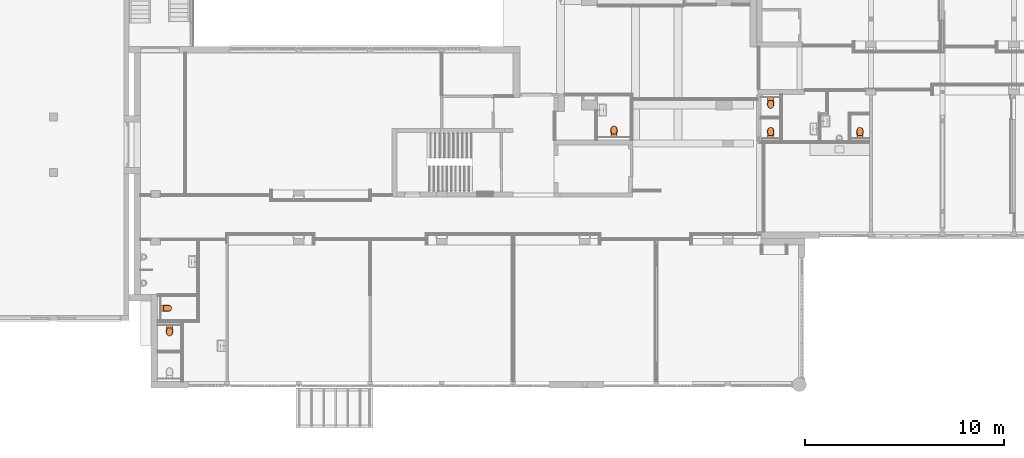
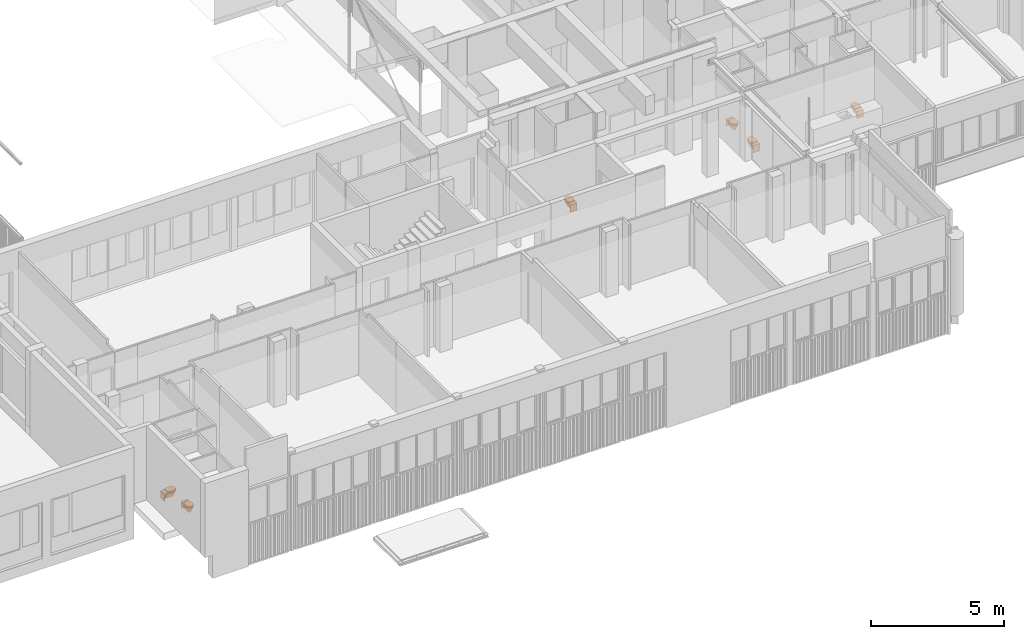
# One storey, part 110 of 117: 6 proxies.
"""IFC2X3 building model written with IfcOpenShell, lengths in millimetres."""

from ifc_helpers import new_model, entity, si_unit, converted_unit, derived_unit, money_unit, direction, frame, origin_with_axes, place, context, subcontext, project, spatial, open_shell, faceted_brep, surface_model, source, transform, mapped, type_object, type_shapes, element, save


model = new_model("IFC2X3")

# Units and contexts
model_context = context("Model", 3, precision=0.01, world=origin_with_axes(), true_north=direction((0.0, 1.0)))
body_context = subcontext(model_context, "Body", "Model", "MODEL_VIEW")
ifc_project = project(units=[si_unit("LENGTHUNIT", "METRE", prefix="MILLI"), si_unit("AREAUNIT", "SQUARE_METRE"), si_unit("VOLUMEUNIT", "CUBIC_METRE"), converted_unit("PLANEANGLEUNIT", "DEGREE", entity("IfcPlaneAngleMeasure", 0.0174532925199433), si_unit("PLANEANGLEUNIT", "RADIAN"), dimensions=[0, 0, 0, 0, 0, 0, 0]), money_unit("EUR"), converted_unit("TIMEUNIT", "Year", entity("IfcTimeMeasure", 31557600.0), si_unit("TIMEUNIT", "SECOND"), dimensions=[0, 0, 1, 0, 0, 0, 0]), si_unit("MASSUNIT", "GRAM", prefix="KILO"), si_unit("THERMODYNAMICTEMPERATUREUNIT", "DEGREE_CELSIUS"), si_unit("LUMINOUSINTENSITYUNIT", "LUMEN"), si_unit("ENERGYUNIT", "JOULE", prefix="MEGA"), derived_unit("THERMALCONDUCTANCEUNIT", [(si_unit("POWERUNIT", "WATT"), 1), (si_unit("LENGTHUNIT", "METRE"), -1), (si_unit("THERMODYNAMICTEMPERATUREUNIT", "KELVIN"), -1)]), derived_unit("SPECIFICHEATCAPACITYUNIT", [(si_unit("ENERGYUNIT", "JOULE"), 1), (si_unit("MASSUNIT", "GRAM", prefix="KILO"), -1), (si_unit("THERMODYNAMICTEMPERATUREUNIT", "KELVIN"), -1)]), derived_unit("MASSDENSITYUNIT", [(si_unit("MASSUNIT", "GRAM", prefix="KILO"), 1), (si_unit("VOLUMEUNIT", "CUBIC_METRE"), -1)])], contexts=[model_context])

# Site, building, storey
site_placement = place(None, origin_with_axes())
site = spatial("IfcSite", under=ifc_project, at=site_placement, Name="Site", CompositionType="ELEMENT")
building_placement = place(site_placement, origin_with_axes())
building = spatial("IfcBuilding", under=site, at=building_placement, Name="Naam gebouw", CompositionType="ELEMENT")
storey_placement = place(building_placement, frame((0.0, 0.0, 4150.0), z_axis=(0.0, 0.0, 1.0), x_axis=(1.0, 0.0, 0.0)))
storey = spatial("IfcBuildingStorey", under=building, at=storey_placement, Name="1e verdieping N", CompositionType="ELEMENT", Elevation=4150.0)

# Proxies
building_element_proxy_type = type_object("IfcBuildingElementProxyType", Name="Toilet 27", PredefinedType="NOTDEFINED")
shared_shape = source(origin_with_axes(), body_context, "Body", "SurfaceModel", [
    faceted_brep([(-141.0283315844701, -29.31865370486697, 69.99999999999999), (-141.0283315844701, 0.4949050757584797, 69.99999999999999), (141.0283315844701, 0.4949050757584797, 69.99999999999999), (141.0283315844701, -29.31865370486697, 69.99999999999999), (-141.0283315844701, -29.31865370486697, 370.0), (-141.0283315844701, 0.4949050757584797, 370.0), (141.0283315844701, 0.4949050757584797, 370.0), (141.0283315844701, -29.31865370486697, 370.0)], [[[0, 1, 2, 3]], [[0, 4, 5, 1]], [[1, 5, 6, 2]], [[2, 6, 7, 3]], [[3, 7, 4, 0]], [[7, 6, 5, 4]]]),
    faceted_brep([(0.0, -70.89167385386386, 370.0), (29.22322490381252, -74.34010881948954, 370.0), (48.96817068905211, -81.5929972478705, 370.0), (48.96817068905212, -29.31865370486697, 370.0), (-48.96817068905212, -29.31865370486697, 370.0), (-48.96817068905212, -81.5929972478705, 370.0), (-29.22322490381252, -74.34010881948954, 370.0), (0.0, -102.6888280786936, 120.0), (13.70129415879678, -104.9506834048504, 120.0), (48.96817068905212, -88.2509938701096, 324.1614695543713), (48.96817068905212, -91.42153264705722, 305.9289314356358), (48.96817068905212, -107.0876370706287, 223.4625696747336), (48.96817068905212, -115.6023982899, 192.7960154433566), (48.96817068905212, -121.830119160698, 170.4964192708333), (48.96817068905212, -132.9294031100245, 150.8349994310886), (48.96817068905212, -136.958898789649, 141.3134093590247), (48.96817068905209, -162.865413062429, 120.0), (48.96817068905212, -29.31865370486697, 120.0), (-48.96817068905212, -29.31865370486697, 120.0), (-48.96817068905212, -132.9294031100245, 150.8349994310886), (-48.96817068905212, -128.1614437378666, 166.4745945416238), (-48.96817068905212, -115.6023982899, 192.7960154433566), (-48.96817068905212, -98.32654517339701, 277.0091093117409), (-48.96817068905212, -91.42153264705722, 305.9289314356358), (-48.96817068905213, -162.8654130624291, 120.0), (-25.9903462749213, -111.5027098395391, 120.0), (-13.70129415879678, -104.9506834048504, 120.0), (25.9903462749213, -111.5027098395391, 120.0), (35.59888072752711, -121.6691333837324, 120.0), (41.53676110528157, -134.4015105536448, 120.0), (-35.59888072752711, -121.6691333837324, 120.0), (-41.53676110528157, -134.4015105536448, 120.0)], [[[0, 1, 2, 3, 4, 5, 6]], [[0, 7, 1]], [[1, 8, 9, 2]], [[9, 10, 11, 12, 13, 14, 15, 16, 17, 3, 2]], [[4, 3, 17, 18]], [[19, 20, 21, 22, 23, 5, 4, 18, 24]], [[23, 25, 6, 5]], [[6, 26, 0]], [[7, 0, 26]], [[8, 1, 7]], [[27, 10, 9, 8]], [[10, 27, 11]], [[28, 12, 11, 27]], [[12, 28, 13]], [[29, 14, 13, 28]], [[14, 29, 15]], [[16, 15, 29]], [[29, 28, 27, 8, 7, 26, 25, 30, 31, 24, 18, 17, 16]], [[19, 31, 20]], [[20, 31, 30, 21]], [[21, 30, 22]], [[22, 30, 25, 23]], [[24, 31, 19]], [[26, 6, 25]]]),
    surface_model("IfcShellBasedSurfaceModel", [(-17.69122070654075, -459.020482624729, 120.0), (-85.18209164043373, -535.3680377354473, 370.0), (-34.02798181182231, -451.6883347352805, 120.0), (-44.28681357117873, -553.722258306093, 370.0), (-119.554809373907, -506.3435444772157, 370.0), (-47.75865687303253, -440.0938417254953, 120.0), (-57.83238894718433, -425.1254476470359, 120.0), (-68.23029031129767, -399.4182096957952, 120.0), (-74.94382651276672, -372.4786779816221, 120.0), (-77.83882476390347, -344.845484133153, 120.0), (-76.85750262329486, -317.0761416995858, 120.0), (-70.97348723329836, -270.8651255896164, 120.0), (-63.11507520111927, -224.9582077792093, 120.0), (-53.29597761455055, -179.4418475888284, 120.0), (-41.53676110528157, -134.4015105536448, 120.0), (-35.59888072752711, -121.6691333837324, 120.0), (-25.9903462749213, -111.5027098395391, 120.0), (-13.70129415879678, -104.9506834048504, 120.0), (0.0, -102.6888280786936, 120.0), (13.70129415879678, -104.9506834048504, 120.0), (25.9903462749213, -111.5027098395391, 120.0), (35.59888072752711, -121.6691333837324, 120.0), (41.53676110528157, -134.4015105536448, 120.0), (53.29597761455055, -179.4418475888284, 120.0), (63.11507520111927, -224.9582077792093, 120.0), (70.97348723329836, -270.8651255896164, 120.0), (76.85750262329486, -317.0761416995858, 120.0), (77.83882476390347, -344.8464779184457, 120.0), (74.94382651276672, -372.4786779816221, 120.0), (68.23029031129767, -399.4182096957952, 120.0), (57.83238894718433, -425.1254476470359, 120.0), (47.75865687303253, -440.0938417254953, 120.0), (34.02798181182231, -451.6883347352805, 120.0), (17.69122070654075, -459.020482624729, 120.0), (0.0, -461.5278029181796, 120.0), (-144.7734172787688, -468.8718762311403, 370.0), (-160.3903462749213, -430.2603362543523, 370.0), (-170.4738719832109, -389.7973742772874, 370.0), (-174.8222455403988, -348.2949128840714, 370.0), (-173.3473242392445, -306.5847503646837, 370.0), (-164.8111927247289, -257.2969749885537, 370.0), (-149.8396642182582, -209.614162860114, 370.0), (-128.7050017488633, -164.3989196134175, 370.0), (-101.7881776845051, -122.4661491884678, 370.0), (-81.51241692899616, -100.8344247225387, 370.0), (-56.88632388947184, -84.50156343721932, 370.0), (-29.22322490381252, -74.34010881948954, 370.0), (0.0, -70.89167385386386, 370.0), (29.22322490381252, -74.34010881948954, 370.0), (56.88632388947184, -84.50156343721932, 370.0), (81.51241692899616, -100.8344247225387, 370.0), (101.7881776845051, -122.4661491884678, 370.0), (128.7050017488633, -164.3989196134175, 370.0), (149.8396642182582, -209.614162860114, 370.0), (164.8111927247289, -257.295981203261, 370.0), (173.3473242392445, -306.5847503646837, 370.0), (174.8222455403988, -348.2949128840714, 370.0), (170.4738719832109, -389.7973742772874, 370.0), (160.3893669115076, -430.2603362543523, 370.0), (144.7734172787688, -468.8718762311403, 370.0), (119.554809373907, -506.3435444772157, 370.0), (85.18209164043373, -535.3680377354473, 370.0), (44.28681357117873, -553.722258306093, 370.0), (0.0, -560.0, 370.0)], [open_shell([[[0, 1, 2]], [[0, 3, 1]], [[2, 1, 4]], [[0, 2, 5, 6, 7, 8, 9, 10, 11, 12, 13, 14, 15, 16, 17, 18, 19, 20, 21, 22, 23, 24, 25, 26, 27, 28, 29, 30, 31, 32, 33, 34]], [[34, 3, 0]], [[2, 4, 5]], [[5, 35, 6]], [[6, 36, 7]], [[7, 37, 8]], [[8, 38, 9]], [[9, 39, 10]], [[10, 40, 11]], [[11, 41, 12]], [[12, 42, 13]], [[13, 43, 14]], [[14, 44, 15]], [[15, 45, 16]], [[16, 46, 17]], [[17, 47, 18]], [[18, 48, 19]], [[19, 49, 20]], [[20, 50, 21]], [[21, 51, 22]], [[22, 52, 23]], [[23, 53, 24]], [[24, 54, 25]], [[25, 55, 26]], [[26, 56, 27]], [[27, 57, 28]], [[28, 58, 29]], [[29, 59, 30]], [[30, 60, 31]], [[31, 61, 32]], [[32, 62, 33]], [[33, 63, 34]], [[34, 63, 3]], [[5, 4, 35]], [[6, 35, 36]], [[7, 36, 37]], [[8, 37, 38]], [[9, 38, 39]], [[10, 39, 40]], [[11, 40, 41]], [[12, 41, 42]], [[13, 42, 43]], [[14, 43, 44]], [[15, 44, 45]], [[16, 45, 46]], [[17, 46, 47]], [[18, 47, 48]], [[19, 48, 49]], [[20, 49, 50]], [[21, 50, 51]], [[22, 51, 52]], [[23, 52, 53]], [[24, 53, 54]], [[25, 54, 55]], [[26, 55, 56]], [[27, 56, 57]], [[28, 57, 58]], [[29, 58, 59]], [[30, 59, 60]], [[31, 60, 61]], [[32, 61, 62]], [[33, 62, 63]]])]),
    faceted_brep([(173.3473242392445, -306.5847503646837, 370.0), (173.3473242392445, -306.5847503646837, 400.0), (174.8222455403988, -348.2949128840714, 400.0), (174.8222455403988, -348.2949128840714, 370.0), (140.9734872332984, 0.0, 370.0), (140.9734872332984, 0.0, 400.0), (-140.975445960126, 0.0, 400.0), (-173.3473242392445, -306.5847503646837, 400.0), (-174.8222455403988, -348.2949128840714, 400.0), (-170.4738719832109, -389.7973742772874, 400.0), (-160.3903462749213, -430.2603362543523, 400.0), (-144.7734172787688, -468.8718762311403, 400.0), (-119.554809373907, -506.3435444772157, 400.0), (-85.18209164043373, -535.3680377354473, 400.0), (-44.28681357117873, -553.722258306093, 400.0), (0.0, -560.0, 400.0), (44.28681357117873, -553.722258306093, 400.0), (85.18209164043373, -535.3680377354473, 400.0), (119.554809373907, -506.3435444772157, 400.0), (144.7734172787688, -468.8718762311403, 400.0), (160.3893669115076, -430.2603362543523, 400.0), (170.4738719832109, -389.7973742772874, 400.0), (-144.5021336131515, -309.7211367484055, 400.0), (-129.3885974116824, -258.2838037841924, 400.0), (-97.13522210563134, -215.7418429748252, 400.0), (-52.01301154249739, -187.731010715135, 400.0), (0.0, -177.9630950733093, 400.0), (52.01301154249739, -187.731010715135, 400.0), (97.13522210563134, -215.7418429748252, 400.0), (129.3885974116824, -258.2838037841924, 400.0), (144.5021336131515, -309.7211367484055, 400.0), (145.8291710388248, -347.2633637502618, 400.0), (141.914655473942, -384.6197529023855, 400.0), (132.838894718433, -421.0399963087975, 400.0), (118.7820916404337, -455.7936617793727, 400.0), (98.09206016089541, -486.5383973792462, 400.0), (69.89031129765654, -510.3524743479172, 400.0), (36.33634137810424, -525.411302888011, 400.0), (0.0, -530.5620920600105, 400.0), (-36.33634137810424, -525.411302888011, 400.0), (-69.89031129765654, -510.3524743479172, 400.0), (-98.09206016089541, -486.5383973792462, 400.0), (-118.7820916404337, -455.7936617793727, 400.0), (-132.838894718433, -421.0399963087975, 400.0), (-141.914655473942, -384.6197529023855, 400.0), (-145.8291710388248, -347.2633637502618, 400.0), (170.4738719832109, -389.7973742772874, 370.0), (160.3893669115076, -430.2603362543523, 370.0), (144.7734172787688, -468.8718762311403, 370.0), (119.554809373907, -506.3435444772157, 370.0), (85.18209164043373, -535.3680377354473, 370.0), (44.28681357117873, -553.722258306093, 370.0), (0.0, -560.0, 370.0), (-44.28681357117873, -553.722258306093, 370.0), (-85.18209164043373, -535.3680377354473, 370.0), (-119.554809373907, -506.3435444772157, 370.0), (-144.7734172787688, -468.8718762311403, 370.0), (-160.3903462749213, -430.2603362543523, 370.0), (-170.4738719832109, -389.7973742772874, 370.0), (-174.8222455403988, -348.2949128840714, 370.0), (-173.3473242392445, -306.5847503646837, 370.0), (-140.975445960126, 0.0, 370.0), (-144.5021336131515, -309.7211367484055, 370.0), (-145.8291710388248, -347.2633637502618, 370.0), (-141.914655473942, -384.6197529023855, 370.0), (-132.838894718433, -421.0399963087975, 370.0), (-118.7820916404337, -455.7936617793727, 370.0), (-98.09206016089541, -486.5383973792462, 370.0), (-69.89031129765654, -510.3524743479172, 370.0), (-36.33634137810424, -525.411302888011, 370.0), (0.0, -530.5620920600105, 370.0), (36.33634137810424, -525.411302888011, 370.0), (69.89031129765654, -510.3524743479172, 370.0), (98.09206016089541, -486.5383973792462, 370.0), (118.7820916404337, -455.7936617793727, 370.0), (132.838894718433, -421.0399963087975, 370.0), (141.914655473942, -384.6197529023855, 370.0), (145.8291710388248, -347.2633637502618, 370.0), (144.5021336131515, -309.7211367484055, 370.0), (129.3885974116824, -258.2838037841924, 370.0), (97.13522210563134, -215.7418429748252, 370.0), (52.01301154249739, -187.731010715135, 370.0), (0.0, -177.9630950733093, 370.0), (-52.01301154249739, -187.731010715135, 370.0), (-97.13522210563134, -215.7418429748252, 370.0), (-129.3885974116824, -258.2838037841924, 370.0)], [[[0, 1, 2, 3]], [[4, 5, 1, 0]], [[1, 5, 6, 7, 8, 9, 10, 11, 12, 13, 14, 15, 16, 17, 18, 19, 20, 21, 2], [22, 23, 24, 25, 26, 27, 28, 29, 30, 31, 32, 33, 34, 35, 36, 37, 38, 39, 40, 41, 42, 43, 44, 45]], [[3, 2, 21, 46]], [[0, 3, 46, 47, 48, 49, 50, 51, 52, 53, 54, 55, 56, 57, 58, 59, 60, 61, 4], [62, 63, 64, 65, 66, 67, 68, 69, 70, 71, 72, 73, 74, 75, 76, 77, 78, 79, 80, 81, 82, 83, 84, 85]], [[61, 6, 5, 4]], [[60, 7, 6, 61]], [[59, 8, 7, 60]], [[58, 9, 8, 59]], [[57, 10, 9, 58]], [[56, 11, 10, 57]], [[55, 12, 11, 56]], [[54, 13, 12, 55]], [[53, 14, 13, 54]], [[52, 15, 14, 53]], [[51, 16, 15, 52]], [[50, 17, 16, 51]], [[49, 18, 17, 50]], [[48, 19, 18, 49]], [[47, 20, 19, 48]], [[46, 21, 20, 47]], [[85, 23, 22, 62]], [[84, 24, 23, 85]], [[83, 25, 24, 84]], [[82, 26, 25, 83]], [[81, 27, 26, 82]], [[80, 28, 27, 81]], [[79, 29, 28, 80]], [[78, 30, 29, 79]], [[77, 31, 30, 78]], [[76, 32, 31, 77]], [[75, 33, 32, 76]], [[74, 34, 33, 75]], [[73, 35, 34, 74]], [[72, 36, 35, 73]], [[71, 37, 36, 72]], [[70, 38, 37, 71]], [[69, 39, 38, 70]], [[68, 40, 39, 69]], [[67, 41, 40, 68]], [[66, 42, 41, 67]], [[65, 43, 42, 66]], [[64, 44, 43, 65]], [[63, 45, 44, 64]], [[62, 22, 45, 63]]]),
    surface_model("IfcShellBasedSurfaceModel", [(-16.80665967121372, -465.7329258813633, 220.0), (-80.92298705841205, -525.2840188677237, 370.0), (-32.3265827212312, -460.0138505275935, 220.0), (-42.0724728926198, -539.6003109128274, 370.0), (-113.5770689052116, -502.644914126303, 370.0), (-45.3707240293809, -450.970145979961, 220.0), (-54.94076949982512, -439.2947985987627, 220.0), (-64.81877579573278, -419.2431529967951, 220.0), (-71.1966351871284, -398.23031825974, 220.0), (-73.9468835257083, -376.6764270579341, 220.0), (-73.01462749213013, -355.0163399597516, 220.0), (-67.42481287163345, -318.9717473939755, 220.0), (-59.95932144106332, -283.164351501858, 220.0), (-50.63117873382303, -247.6615905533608, 220.0), (-39.4599230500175, -212.5301276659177, 220.0), (-33.81893669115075, -202.598873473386, 220.0), (-24.69082896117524, -194.6690631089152, 220.0), (-13.01622945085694, -189.558482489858, 220.0), (0.0, -187.7942353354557, 220.0), (13.01622945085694, -189.558482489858, 220.0), (24.69082896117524, -194.6690631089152, 220.0), (33.81893669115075, -202.598873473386, 220.0), (39.4599230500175, -212.5301276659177, 220.0), (50.63117873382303, -247.6615905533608, 220.0), (59.95932144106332, -283.164351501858, 220.0), (67.42481287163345, -318.9717473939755, 220.0), (73.01462749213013, -355.0163399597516, 220.0), (73.9468835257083, -376.6772022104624, 220.0), (71.1966351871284, -398.23031825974, 220.0), (64.81877579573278, -419.2431529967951, 220.0), (54.94076949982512, -439.2947985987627, 220.0), (45.3707240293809, -450.970145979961, 220.0), (32.3265827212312, -460.0138505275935, 220.0), (16.80665967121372, -465.7329258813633, 220.0), (0.0, -467.6886357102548, 220.0), (-137.5347464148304, -473.4170128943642, 370.0), (-152.3708289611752, -443.3000117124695, 370.0), (-161.9501783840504, -411.7389013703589, 370.0), (-166.0811332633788, -379.3669814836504, 370.0), (-164.6799580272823, -346.833054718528, 370.0), (-156.5706330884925, -308.3885899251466, 370.0), (-142.3476810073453, -271.1959964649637, 370.0), (-122.2697516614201, -235.9281067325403, 370.0), (-96.69876880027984, -203.2205458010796, 370.0), (-77.43679608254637, -186.3478007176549, 370.0), (-54.04200769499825, -173.6081689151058, 370.0), (-27.7620636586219, -165.6822343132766, 370.0), (0.0, -162.9924550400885, 370.0), (27.7620636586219, -165.6822343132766, 370.0), (54.04200769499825, -173.6081689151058, 370.0), (77.43679608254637, -186.3478007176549, 370.0), (96.69876880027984, -203.2205458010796, 370.0), (122.2697516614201, -235.9281067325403, 370.0), (142.3476810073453, -271.1959964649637, 370.0), (156.5706330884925, -308.3878147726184, 370.0), (164.6799580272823, -346.833054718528, 370.0), (166.0811332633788, -379.3669814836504, 370.0), (161.9501783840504, -411.7389013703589, 370.0), (152.3698985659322, -443.3000117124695, 370.0), (137.5347464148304, -473.4170128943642, 370.0), (113.5770689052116, -502.644914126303, 370.0), (80.92298705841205, -525.2840188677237, 370.0), (42.0724728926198, -539.6003109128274, 370.0), (0.0, -544.4969494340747, 370.0)], [open_shell([[[0, 1, 2]], [[0, 3, 1]], [[2, 1, 4]], [[0, 2, 5, 6, 7, 8, 9, 10, 11, 12, 13, 14, 15, 16, 17, 18, 19, 20, 21, 22, 23, 24, 25, 26, 27, 28, 29, 30, 31, 32, 33, 34]], [[34, 3, 0]], [[2, 4, 5]], [[5, 35, 6]], [[6, 36, 7]], [[7, 37, 8]], [[8, 38, 9]], [[9, 39, 10]], [[10, 40, 11]], [[11, 41, 12]], [[12, 42, 13]], [[13, 43, 14]], [[14, 44, 15]], [[15, 45, 16]], [[16, 46, 17]], [[17, 47, 18]], [[18, 48, 19]], [[19, 49, 20]], [[20, 50, 21]], [[21, 51, 22]], [[22, 52, 23]], [[23, 53, 24]], [[24, 54, 25]], [[25, 55, 26]], [[26, 56, 27]], [[27, 57, 28]], [[28, 58, 29]], [[29, 59, 30]], [[30, 60, 31]], [[31, 61, 32]], [[32, 62, 33]], [[33, 63, 34]], [[34, 63, 3]], [[5, 4, 35]], [[6, 35, 36]], [[7, 36, 37]], [[8, 37, 38]], [[9, 38, 39]], [[10, 39, 40]], [[11, 40, 41]], [[12, 41, 42]], [[13, 42, 43]], [[14, 43, 44]], [[15, 44, 45]], [[16, 45, 46]], [[17, 46, 47]], [[18, 47, 48]], [[19, 48, 49]], [[20, 49, 50]], [[21, 50, 51]], [[22, 51, 52]], [[23, 52, 53]], [[24, 53, 54]], [[25, 54, 55]], [[26, 55, 56]], [[27, 56, 57]], [[28, 57, 58]], [[29, 58, 59]], [[30, 59, 60]], [[31, 60, 61]], [[32, 61, 62]], [[33, 62, 63]]])]),
    faceted_brep([(0.0, -560.0, 400.0), (-44.28681357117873, -553.722258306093, 400.0), (-85.18209164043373, -535.3680377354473, 400.0), (-119.554809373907, -506.3435444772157, 400.0), (-144.7734172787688, -468.8718762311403, 400.0), (-160.3903462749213, -430.2603362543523, 400.0), (-170.4738719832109, -389.7973742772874, 400.0), (-174.8222455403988, -348.2949128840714, 400.0), (-173.3473242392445, -306.5847503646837, 400.0), (-166.4663168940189, -264.4263906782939, 400.0), (-154.8716334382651, -223.3443004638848, 400.0), (-138.7150752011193, -183.8810864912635, 400.0), (-110.1926579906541, -151.3163525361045, 400.0), (110.1926579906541, -151.3163525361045, 400.0), (138.7150752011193, -183.8810864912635, 400.0), (154.8716334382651, -223.3443004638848, 400.0), (166.4663168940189, -264.4263906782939, 400.0), (173.3473242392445, -306.5847503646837, 400.0), (174.8222455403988, -348.2949128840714, 400.0), (170.4738719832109, -389.7973742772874, 400.0), (160.3893669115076, -430.2603362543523, 400.0), (144.7734172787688, -468.8718762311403, 400.0), (119.554809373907, -506.3435444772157, 400.0), (85.18209164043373, -535.3680377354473, 400.0), (44.28681357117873, -553.722258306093, 400.0), (-87.07689659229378, -411.9963613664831, 400.0), (-76.4888004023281, -438.0775703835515, 400.0), (-62.06856874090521, -459.4262123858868, 400.0), (-44.26109835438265, -474.4067566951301, 400.0), (-23.02579943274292, -483.9023013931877, 400.0), (0.0, -487.1544663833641, 400.0), (23.02579943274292, -483.9023013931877, 400.0), (44.26109835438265, -474.4067566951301, 400.0), (62.06856874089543, -459.4262123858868, 400.0), (76.4888004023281, -438.0775703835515, 400.0), (87.07689659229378, -411.9963613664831, 400.0), (94.51085540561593, -382.2763031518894, 400.0), (97.71606496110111, -351.7983255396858, 400.0), (96.61425296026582, -320.7429308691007, 400.0), (90.99294096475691, -286.7942733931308, 400.0), (81.3289539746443, -253.3384220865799, 400.0), (68.75412876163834, -223.4663237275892, 400.0), (-68.75448552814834, -223.4663237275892, 400.0), (-81.32886310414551, -253.3381075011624, 400.0), (-90.99294096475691, -286.7942733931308, 400.0), (-96.61425296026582, -320.7429308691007, 400.0), (-97.71606496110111, -351.7983255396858, 400.0), (-94.51085540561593, -382.2763031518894, 400.0), (-42.15180132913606, -546.1188070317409, 420.0000000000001), (-81.07562084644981, -528.649055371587, 420.0000000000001), (-113.7912556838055, -501.0248055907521, 420.0000000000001), (-137.7925148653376, -465.3598390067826, 420.0000000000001), (-152.9902763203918, -427.7848170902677, 420.0000000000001), (-162.8034977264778, -388.4070686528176, 420.0000000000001), (-167.0353270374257, -348.0176467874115, 420.0000000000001), (-165.6005596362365, -307.4274802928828, 420.0000000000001), (-158.5902763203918, -264.9332211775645, 420.0000000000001), (-146.6880727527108, -223.5758524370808, 420.0000000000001), (-130.06142007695, -183.9307757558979, 420.0000000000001), (-108.940468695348, -151.3163525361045, 420.0000000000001), (108.940468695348, -151.3163525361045, 420.0000000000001), (130.06142007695, -183.9317695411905, 420.0000000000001), (146.6880727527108, -223.5758524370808, 420.0000000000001), (158.5902763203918, -264.9332211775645, 420.0000000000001), (165.6005596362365, -307.4274802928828, 420.0000000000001), (167.0353270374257, -348.0176467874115, 420.0000000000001), (162.8034977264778, -388.4070686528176, 420.0000000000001), (152.9902763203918, -427.7848170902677, 420.0000000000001), (137.7925148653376, -465.3598390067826, 420.0000000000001), (113.7912556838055, -501.0248055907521, 420.0000000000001), (81.07562084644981, -528.649055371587, 420.0000000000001), (42.15180132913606, -546.1188070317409, 420.0000000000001), (0.0, -552.0944379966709, 420.0000000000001), (-76.4888004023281, -438.0775703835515, 420.0), (-87.07689659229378, -411.9963613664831, 420.0), (-62.06856874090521, -459.4262123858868, 420.0), (-44.26109835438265, -474.4067566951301, 420.0), (-23.02579943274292, -483.9023013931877, 420.0), (0.0, -487.1544663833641, 420.0), (23.02579943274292, -483.9023013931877, 420.0000000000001), (44.26109835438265, -474.4067566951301, 420.0000000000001), (62.06856874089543, -459.4262123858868, 420.0000000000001), (76.4888004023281, -438.0775703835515, 420.0000000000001), (87.07689659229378, -411.9963613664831, 420.0000000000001), (94.51085540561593, -382.2763031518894, 420.0000000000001), (97.71606496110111, -351.7983255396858, 420.0000000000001), (96.61425296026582, -320.7429308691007, 420.0000000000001), (90.99294096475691, -286.7942733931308, 420.0000000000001), (81.3289539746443, -253.3384220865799, 420.0000000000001), (68.75412876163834, -223.4663237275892, 420.0000000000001), (-68.75448552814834, -223.4663237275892, 420.0), (-81.32886310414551, -253.3381075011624, 420.0), (-90.99294096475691, -286.7942733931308, 420.0), (-96.61425296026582, -320.7429308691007, 420.0), (-97.71606496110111, -351.7983255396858, 420.0), (-94.51085540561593, -382.2763031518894, 420.0)], [[[0, 1, 2, 3, 4, 5, 6, 7, 8, 9, 10, 11, 12, 13, 14, 15, 16, 17, 18, 19, 20, 21, 22, 23, 24], [25, 26, 27, 28, 29, 30, 31, 32, 33, 34, 35, 36, 37, 38, 39, 40, 41, 42, 43, 44, 45, 46, 47]], [[0, 48, 1]], [[1, 49, 2]], [[2, 50, 3]], [[3, 51, 4]], [[5, 4, 51, 52]], [[5, 53, 6]], [[7, 6, 53, 54]], [[7, 55, 8]], [[8, 56, 9]], [[9, 57, 10]], [[10, 58, 11]], [[11, 59, 12]], [[13, 12, 59, 60]], [[13, 61, 14]], [[14, 62, 15]], [[15, 63, 16]], [[16, 64, 17]], [[17, 65, 18]], [[19, 18, 65, 66]], [[19, 67, 20]], [[20, 68, 21]], [[21, 69, 22]], [[22, 70, 23]], [[23, 71, 24]], [[24, 72, 0]], [[73, 26, 25, 74]], [[75, 27, 26, 73]], [[76, 28, 27, 75]], [[77, 29, 28, 76]], [[78, 30, 29, 77]], [[79, 31, 30, 78]], [[80, 32, 31, 79]], [[81, 33, 32, 80]], [[82, 34, 33, 81]], [[83, 35, 34, 82]], [[84, 36, 35, 83]], [[85, 37, 36, 84]], [[86, 38, 37, 85]], [[87, 39, 38, 86]], [[88, 40, 39, 87]], [[89, 41, 40, 88]], [[90, 42, 41, 89]], [[91, 43, 42, 90]], [[92, 44, 43, 91]], [[93, 45, 44, 92]], [[94, 46, 45, 93]], [[95, 47, 46, 94]], [[74, 25, 47, 95]], [[0, 72, 48]], [[1, 48, 49]], [[2, 49, 50]], [[3, 50, 51]], [[66, 65, 64, 63, 62, 61, 60, 59, 58, 57, 56, 55, 54, 53, 52, 51, 50, 49, 48, 72, 71, 70, 69, 68, 67], [92, 91, 90, 89, 88, 87, 86, 85, 84, 83, 82, 81, 80, 79, 78, 77, 76, 75, 73, 74, 95, 94, 93]], [[5, 52, 53]], [[7, 54, 55]], [[8, 55, 56]], [[9, 56, 57]], [[10, 57, 58]], [[11, 58, 59]], [[13, 60, 61]], [[14, 61, 62]], [[15, 62, 63]], [[16, 63, 64]], [[17, 64, 65]], [[19, 66, 67]], [[20, 67, 68]], [[21, 68, 69]], [[22, 69, 70]], [[23, 70, 71]], [[24, 71, 72]]]),
    faceted_brep([(107.5993284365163, -494.4181209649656, 420.0000000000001), (72.96805876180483, -528.649055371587, 440.0000000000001), (76.66388247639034, -519.4674730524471, 420.0000000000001), (102.412130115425, -501.0248055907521, 440.0000000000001), (37.93662119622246, -546.1188070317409, 440.0000000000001), (39.85813221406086, -538.8154789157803, 420.0000000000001), (0.0, -545.0932206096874, 420.0000000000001), (-39.85813221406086, -538.8154789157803, 420.0000000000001), (-76.66388247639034, -519.4674730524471, 420.0000000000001), (-107.5993284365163, -494.4181209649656, 420.0000000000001), (-130.2960755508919, -463.9029497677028, 420.0000000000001), (-144.3513116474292, -430.2603362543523, 420.0000000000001), (-153.4264847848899, -389.7973742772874, 420.0000000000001), (-157.3400209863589, -348.2949128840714, 420.0000000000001), (-156.01259181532, -306.5847503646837, 420.0000000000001), (-149.819685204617, -264.4263906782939, 420.0000000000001), (-139.3844700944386, -223.3443004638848, 420.0000000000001), (-119.5550052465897, -183.8810864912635, 420.0000000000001), (-99.17339219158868, -151.3163525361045, 420.0000000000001), (99.17339219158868, -151.3163525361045, 420.0000000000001), (119.5550052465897, -183.8810864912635, 420.0000000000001), (139.3844700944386, -223.3443004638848, 420.0000000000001), (149.819685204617, -264.4263906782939, 420.0000000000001), (156.01259181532, -306.5847503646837, 420.0000000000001), (157.3400209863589, -348.2949128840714, 420.0000000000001), (153.4264847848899, -389.7973742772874, 420.0000000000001), (144.3504302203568, -430.2603362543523, 420.0000000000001), (130.2960755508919, -463.9029497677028, 420.0000000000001), (124.0132633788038, -465.3598390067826, 440.0000000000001), (137.6912486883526, -427.7848170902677, 440.0000000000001), (146.52314795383, -388.4070686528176, 440.0000000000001), (150.3317943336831, -348.0176467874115, 440.0000000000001), (149.0405036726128, -307.4274802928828, 440.0000000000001), (142.7312486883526, -264.9332211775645, 440.0000000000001), (132.0192654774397, -223.5758524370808, 440.0000000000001), (117.055278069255, -183.9317695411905, 440.0000000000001), (98.04642182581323, -151.3163525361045, 440.0000000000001), (-98.04642182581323, -151.3163525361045, 440.0000000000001), (-117.055278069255, -183.9307757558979, 440.0000000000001), (-132.0192654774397, -223.5758524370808, 440.0000000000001), (-142.7312486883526, -264.9332211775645, 440.0000000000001), (-149.0405036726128, -307.4274802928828, 440.0000000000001), (-150.3317943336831, -348.0176467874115, 440.0000000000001), (-146.52314795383, -388.4070686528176, 440.0000000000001), (-137.6912486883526, -427.7848170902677, 440.0000000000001), (-124.0132633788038, -465.3598390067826, 440.0000000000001), (-102.412130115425, -501.0248055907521, 440.0000000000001), (-72.96805876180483, -528.649055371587, 440.0000000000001), (-37.93662119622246, -546.1188070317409, 440.0000000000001), (0.0, -552.0944379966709, 440.0000000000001)], [[[0, 1, 2]], [[0, 3, 1]], [[2, 1, 4]], [[0, 2, 5, 6, 7, 8, 9, 10, 11, 12, 13, 14, 15, 16, 17, 18, 19, 20, 21, 22, 23, 24, 25, 26, 27]], [[27, 3, 0]], [[3, 28, 29, 30, 31, 32, 33, 34, 35, 36, 37, 38, 39, 40, 41, 42, 43, 44, 45, 46, 47, 48, 49, 4, 1]], [[2, 4, 5]], [[5, 49, 6]], [[6, 48, 7]], [[7, 47, 8]], [[8, 46, 9]], [[9, 45, 10]], [[10, 44, 11]], [[11, 43, 12]], [[12, 43, 42, 13]], [[13, 41, 14]], [[14, 40, 15]], [[15, 39, 16]], [[16, 38, 17]], [[17, 37, 18]], [[18, 37, 36, 19]], [[19, 35, 20]], [[20, 34, 21]], [[21, 33, 22]], [[22, 32, 23]], [[23, 31, 24]], [[24, 31, 30, 25]], [[25, 29, 26]], [[26, 28, 27]], [[27, 28, 3]], [[26, 29, 28]], [[25, 30, 29]], [[23, 32, 31]], [[22, 33, 32]], [[21, 34, 33]], [[20, 35, 34]], [[19, 36, 35]], [[17, 38, 37]], [[16, 39, 38]], [[15, 40, 39]], [[14, 41, 40]], [[13, 42, 41]], [[11, 44, 43]], [[10, 45, 44]], [[9, 46, 45]], [[8, 47, 46]], [[7, 48, 47]], [[6, 49, 48]], [[5, 4, 49]]]),
])
type_shapes(building_element_proxy_type, [shared_shape])
for number, where, z_axis, x_axis, name in (
    (1, (35450.00000000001, 15690.91242510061, 0.0), (0.0, 0.0, 1.0), (-1.0, 0.0, 0.0), "_Sanitair-x"),
    (2, (250.0000479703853, 7140.121696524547, 0.0), (0.0, 0.0, 1.0), (0.0, 1.0, 0.0), "_Sanitair-x"),
    (3, (30954.1870993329, 15690.91242510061, 0.0), (0.0, 0.0, 1.0), (-1.0, 0.0, 0.0), "_Sanitair-x"),
    (4, (23069.49999999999, 15756.60803964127, 0.0), (0.0, 0.0, 1.0), (-1.0, 0.0, 0.0), "_Sanitair-x"),
    (5, (30954.18709933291, 17750.91242510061, 0.0), (0.0, 0.0, 1.0), (1.0, 0.0, 0.0), "_Sanitair-x"),
    (6, (700.1582291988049, 6295.65893350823, 0.0), (0.0, 0.0, 1.0), (1.0, 0.0, 0.0), "_Sanitair-x"),
):
    element("IfcBuildingElementProxy", number, at=place(storey_placement, frame(where, z_axis=z_axis, x_axis=x_axis)), inside=storey, type_object=building_element_proxy_type, Name=name, context=body_context, shape_type="MappedRepresentation", body=[
        mapped(shared_shape, transform((0.0, 0.0, 0.0))),
    ])

save(model, "model.ifc")
